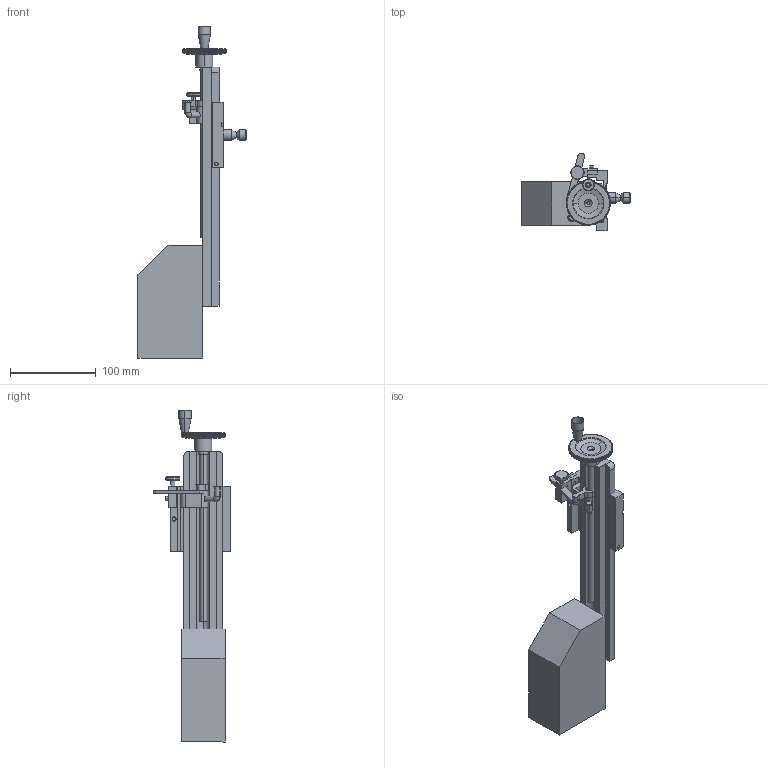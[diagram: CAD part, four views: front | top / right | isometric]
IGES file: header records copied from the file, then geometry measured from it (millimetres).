
Start section: Comment
Global section: file name: 5000 MILL COLUMN hws.igs; native system:  By Spatial Corp.; preprocessor: XPlus PS/IGES 3.0; author: Author; organization: Title; date: 20190124.145752; units: inch
Bounding box: 126.31 x 90.47 x 388.06 mm (x, y, z)
Surface area: 123216.5 mm2 (no closed solid volume)
Topology: 0 solids, 0 shells, 1436 faces, 14792 edges, 14790 vertices
Faces by surface type: revolution 796, extrusion 632, bspline 8
